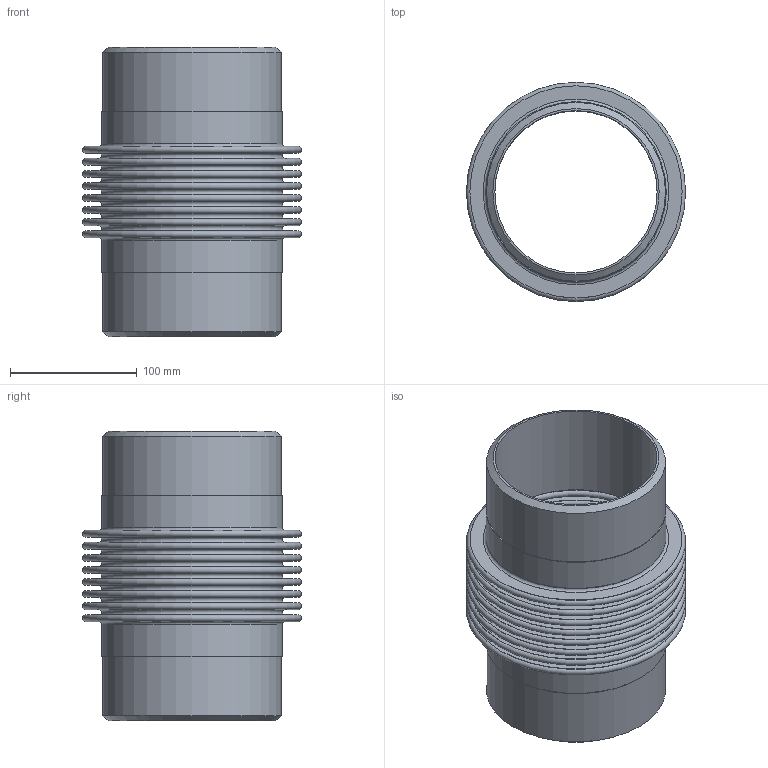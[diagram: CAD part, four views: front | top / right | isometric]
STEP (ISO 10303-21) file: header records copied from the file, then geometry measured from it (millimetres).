
FILE_DESCRIPTION(/* description */ ('EXPANSION JOINT,SINGLE, WELD ENDS,4 INCH NOMINAL'),/* implementation_level */ '2;1');
FILE_NAME(/* name */ 'US-5-85S- WELD-ENDS.stp',/* time_stamp */ '2026-07-30T09:39:16-05:00',/* author */ ('jorgef'),/* organization */ (''),/* preprocessor_version */ 'ST-DEVELOPER v20.1',/* originating_system */ 'Autodesk Inventor 2026',/* authorisation */ '');
FILE_SCHEMA (('AUTOMOTIVE_DESIGN { 1 0 10303 214 3 1 1 }'));
Length unit declared in the file: inch
Products named in the file (3): SINGLE STOCK  BELLOW WELDED ENDS  5- 85 PSIG; STOCK BELLOW - US-5-8-85S; PIPE- 5 - 85 PSIG
Assembly tree (3 placements, depth 2):
  SINGLE STOCK  BELLOW WELDED ENDS  5- 85 PSIG
    STOCK BELLOW - US-5-8-85S
    PIPE- 5 - 85 PSIG  x2
Bounding box: 173.05 x 173.05 x 228.6 mm (x, y, z)
Volume: 514989.4 mm3; surface area: 468937.6 mm2
Topology: 5 solids, 5 shells, 86 faces, 132 edges, 89 vertices
Faces by surface type: plane 42, torus 34, cylinder 8, cone 2
Full cylindrical faces by diameter (mm): 128.194 x2, 141.3 x4, 142.519 x2
Entity records: 2033 total; most frequent: DIRECTION 413, CARTESIAN_POINT 293, ORIENTED_EDGE 246, AXIS2_PLACEMENT_3D 203, EDGE_CURVE 123, EDGE_LOOP 121, CIRCLE 116, VERTEX_POINT 82
